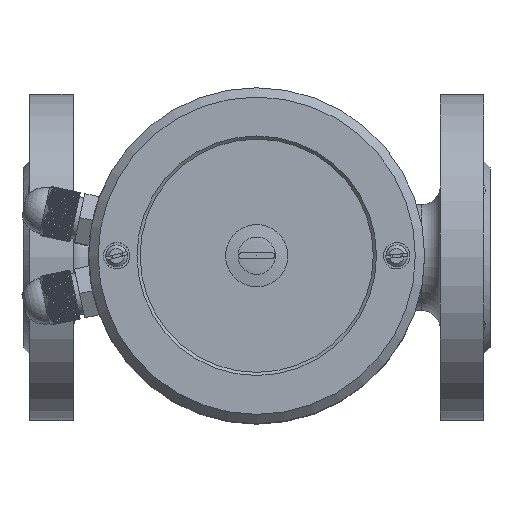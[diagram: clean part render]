
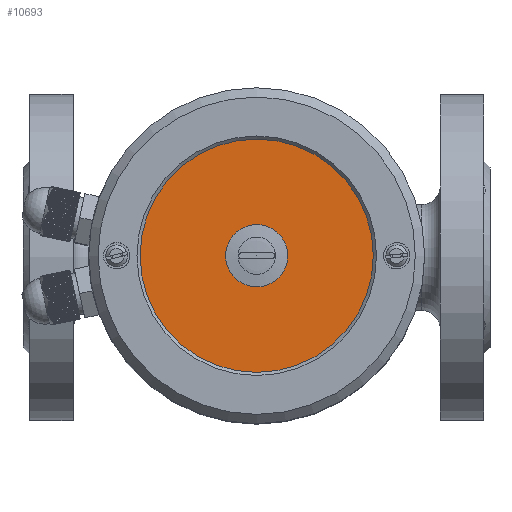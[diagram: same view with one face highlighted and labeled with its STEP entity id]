
A CAD part, top view. The second image highlights one B-rep face of the part: STEP entity #10693.
In plain terms, the highlighted planar face has unit normal (0, 0, 1).
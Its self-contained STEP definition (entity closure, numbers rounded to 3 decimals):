
#10693=ADVANCED_FACE('',(#24864,#24866),#24868,.T.);
#24864=FACE_BOUND('',#24865,.T.);
#24865=EDGE_LOOP('',(#38279));
#24866=FACE_BOUND('',#24867,.T.);
#24867=EDGE_LOOP('',(#38280));
#24868=PLANE('',#24869);
#24869=AXIS2_PLACEMENT_3D('',#24870,#24871,#24872);
#24870=CARTESIAN_POINT('',(0.,0.,343.506));
#24871=DIRECTION('',(0.,0.,1.));
#24872=DIRECTION('',(-1.,0.,0.));
#38279=ORIENTED_EDGE('',*,*,#45629,.T.);
#38280=ORIENTED_EDGE('',*,*,#45634,.F.);
#45629=EDGE_CURVE('',#53180,#53180,#53181,.T.);
#45634=EDGE_CURVE('',#53190,#53190,#53191,.T.);
#53180=VERTEX_POINT('',#92671);
#53181=CIRCLE('',#92672,37.5);
#53190=VERTEX_POINT('',#92696);
#53191=CIRCLE('',#92697,10.007);
#92671=CARTESIAN_POINT('',(-37.5,0.,343.506));
#92672=AXIS2_PLACEMENT_3D('',#92673,#92674,#92675);
#92673=CARTESIAN_POINT('',(0.,0.,343.506));
#92674=DIRECTION('',(0.,0.,1.));
#92675=DIRECTION('',(-1.,0.,0.));
#92696=CARTESIAN_POINT('',(-10.007,0.,343.506));
#92697=AXIS2_PLACEMENT_3D('',#92698,#92699,#92700);
#92698=CARTESIAN_POINT('',(0.,0.,343.506));
#92699=DIRECTION('',(0.,0.,1.));
#92700=DIRECTION('',(-1.,0.,0.));
